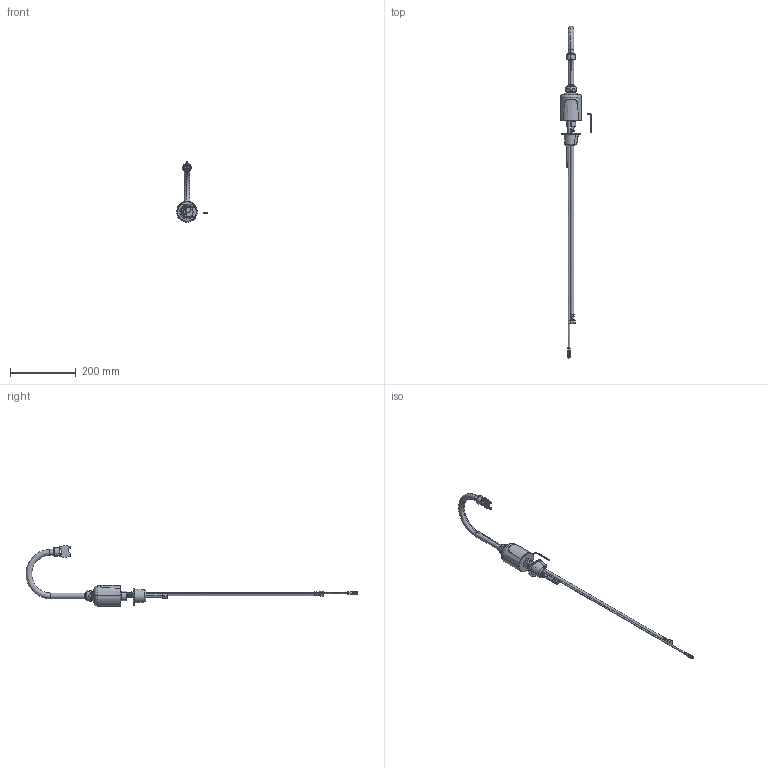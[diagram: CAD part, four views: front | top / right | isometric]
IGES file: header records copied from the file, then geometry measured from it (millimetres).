
Start section:  PTC IGES file: 117-103-ab-1t_REV090525.igs
Global section: file name: 117-103-ab-1t_REV090525.igs; native system: Creo Parametric by PTC Inc.; preprocessor: 2024253; author: rodjo; organization: Unknown; date: 20250905.164507; units: inch
Bounding box: 94.26 x 1013.45 x 185.18 mm (x, y, z)
Surface area: 104454.4 mm2 (no closed solid volume)
Topology: 0 solids, 0 shells, 518 faces, 2616 edges, 2616 vertices
Faces by surface type: revolution 356, bspline 162
